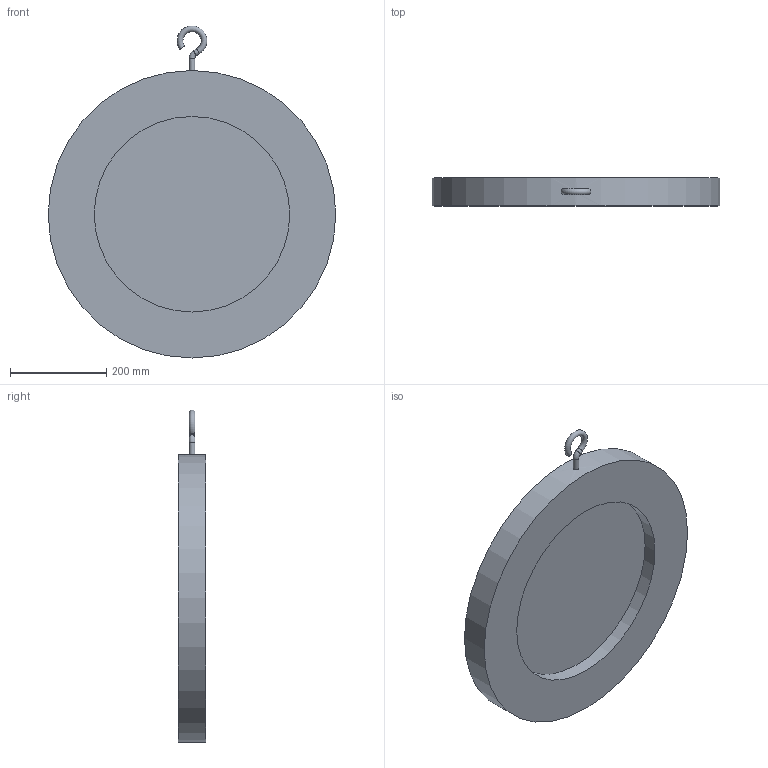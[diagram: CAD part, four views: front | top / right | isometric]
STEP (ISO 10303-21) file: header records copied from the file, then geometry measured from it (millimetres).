
FILE_DESCRIPTION(('STEP AP203'), '1');
FILE_NAME('孰囡囗 钺疣蝽 钿眍耱忸瘅囹 戾骠豚眦邂 008C.Y DN500', '', ('UNSPECIFIED'), ('UNSPECIFIED'), 'ASCON STEP Converter 1.6', 'ASCON Math Kernel', '');
FILE_SCHEMA(('CONFIG_CONTROL_DESIGN'));
Length unit declared in the file: millimetre
Bounding box: 597 x 58 x 689.45 mm (x, y, z)
Volume: 9501716.6 mm3; surface area: 765222.3 mm2
Topology: 1 solids, 1 shells, 31 faces, 69 edges, 45 vertices
Faces by surface type: plane 16, cylinder 12, torus 2, cone 1
Full cylindrical faces by diameter (mm): 12 x2, 406 x1, 597 x1
Entity records: 1397 total; most frequent: CARTESIAN_POINT 434, DIRECTION 146, ORIENTED_EDGE 124, EDGE_CURVE 62, AXIS2_PLACEMENT_3D 57, VERTEX_POINT 45, EDGE_LOOP 43, COLOUR_RGB 32
